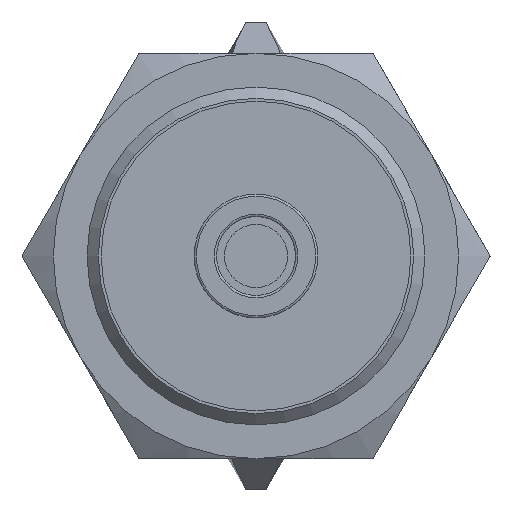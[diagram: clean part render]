
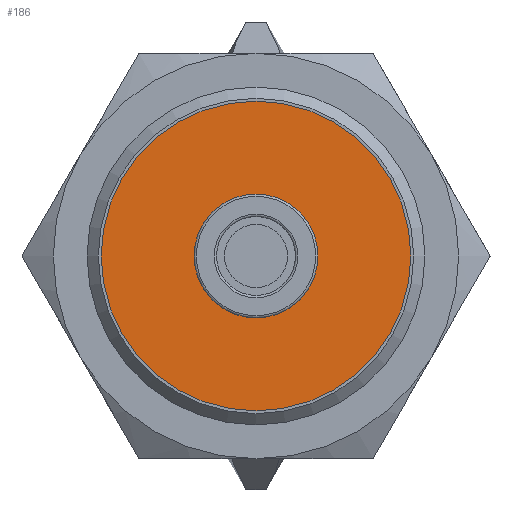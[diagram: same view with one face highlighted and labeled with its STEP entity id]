
A CAD part, left-side view. The second image highlights one B-rep face of the part: STEP entity #186.
In plain terms, the highlighted planar face has unit normal (-1, 0, 0).
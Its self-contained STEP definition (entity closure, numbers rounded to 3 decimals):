
#186 = ADVANCED_FACE( '', ( #247, #248 ), #249, .T. );
#247 = FACE_BOUND( '', #364, .T. );
#248 = FACE_OUTER_BOUND( '', #365, .T. );
#249 = PLANE( '', #366 );
#364 = EDGE_LOOP( '', ( #496 ) );
#365 = EDGE_LOOP( '', ( #497 ) );
#366 = AXIS2_PLACEMENT_3D( '', #498, #499, #500 );
#496 = ORIENTED_EDGE( '', *, *, #782, .F. );
#497 = ORIENTED_EDGE( '', *, *, #783, .T. );
#498 = CARTESIAN_POINT( '', ( -60.05, 0., 0. ) );
#499 = DIRECTION( '', ( -1., 0., 0. ) );
#500 = DIRECTION( '', ( 0., 0., -1. ) );
#782 = EDGE_CURVE( '', #880, #880, #881, .T. );
#783 = EDGE_CURVE( '', #882, #882, #883, .T. );
#880 = VERTEX_POINT( '', #1020 );
#881 = CIRCLE( '', #1021, 5.5 );
#882 = VERTEX_POINT( '', #1022 );
#883 = CIRCLE( '', #1023, 13.75 );
#1020 = CARTESIAN_POINT( '', ( -60.05, 0., -5.5 ) );
#1021 = AXIS2_PLACEMENT_3D( '', #1348, #1349, #1350 );
#1022 = CARTESIAN_POINT( '', ( -60.05, -13.75, 0. ) );
#1023 = AXIS2_PLACEMENT_3D( '', #1351, #1352, #1353 );
#1348 = CARTESIAN_POINT( '', ( -60.05, 0., 0. ) );
#1349 = DIRECTION( '', ( -1., 0., 0. ) );
#1350 = DIRECTION( '', ( 0., 0., -1. ) );
#1351 = CARTESIAN_POINT( '', ( -60.05, 0., 0. ) );
#1352 = DIRECTION( '', ( -1., 0., 0. ) );
#1353 = DIRECTION( '', ( 0., -1., 0. ) );
